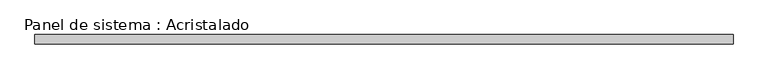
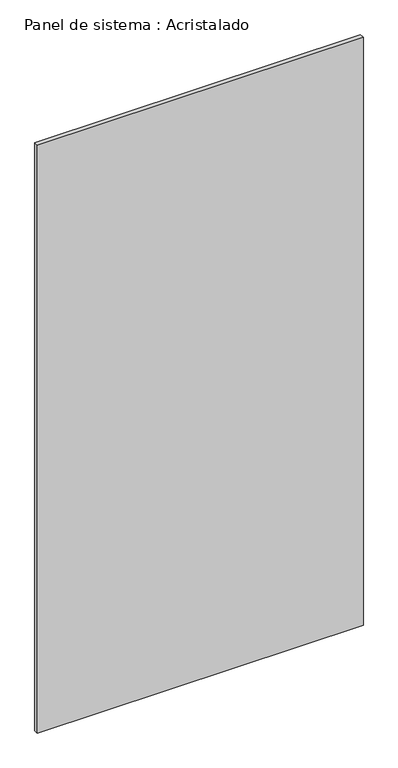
"""IFC4 building model written with IfcOpenShell, lengths in millimetres: plate geometry, Panel de sistema : Acristalado."""

from ifc_helpers import new_model, si_unit, origin, origin_with_axes, place, context, project, spatial, polyline, outline, extrude, source, transform, mapped, element, save


def panel_de_sistema_acristalado_c428148b(model_context):
    return source(origin(), model_context, "Body", "SweptSolid", [
        extrude(outline(polyline([(740.0, -10.0), (-740.0, -10.0), (-740.0, 10.0), (740.0, 10.0), (740.0, -10.0)])), origin_with_axes(), (0.0, 0.0, 1.0), 2820.0),
    ])


if __name__ == "__main__":
    model = new_model("IFC4")
    model_context = context("Model", 3, world=origin())
    ifc_project = project(units=[si_unit("LENGTHUNIT", "METRE", prefix="MILLI")], contexts=[model_context])
    site = spatial("IfcSite", under=ifc_project)
    building = spatial("IfcBuilding", under=site)
    placement = place(None, origin())
    panel_de_sistema_acristalado_shape = panel_de_sistema_acristalado_c428148b(model_context)
    element("IfcPlate", 1, ObjectType="Panel de sistema : Acristalado", at=placement, inside=building, context=model_context, shape_type="MappedRepresentation", body=[
        mapped(panel_de_sistema_acristalado_shape, transform((0.0, 0.0, 0.0), x_axis=(1.0, 0.0, 0.0), y_axis=(0.0, 1.0, 0.0), z_axis=(0.0, 0.0, 1.0))),
    ])
    save(model, "model.ifc")
